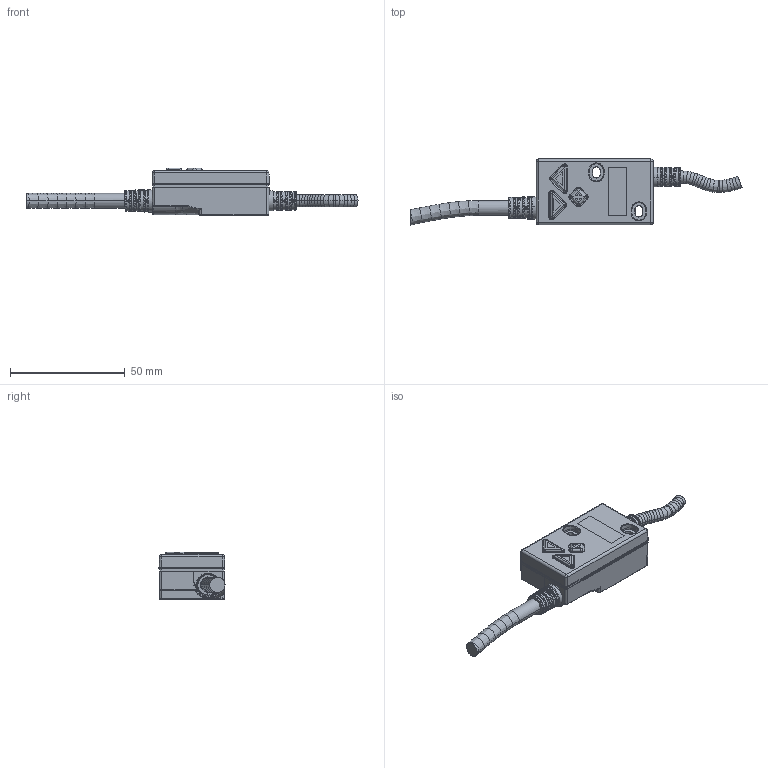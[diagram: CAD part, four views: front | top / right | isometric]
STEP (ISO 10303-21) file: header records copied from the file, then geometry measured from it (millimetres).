
FILE_DESCRIPTION (( 'STEP AP214' ), '1' );
FILE_NAME ('PD2.STEP', '2020-06-09T07:05:37', ( '' ), ( '' ), 'SwSTEP 2.0', 'SolidWorks 2018', '' );
FILE_SCHEMA (( 'AUTOMOTIVE_DESIGN' ));
Length unit declared in the file: millimetre
Products named in the file (1): PD2
Bounding box: 144.72 x 28.78 x 20.75 mm (x, y, z)
Volume: 29175.6 mm3; surface area: 8969 mm2
Topology: 1 solids, 21 shells, 911 faces, 2276 edges, 1424 vertices
Faces by surface type: plane 384, bspline 255, cylinder 212, cone 52, torus 8
Entity records: 47759 total; most frequent: CARTESIAN_POINT 18420, ORIENTED_EDGE 4528, DIRECTION 3473, EDGE_CURVE 2264, VERTEX_POINT 1424, AXIS2_PLACEMENT_3D 1183, VECTOR 1107, LINE 1107
